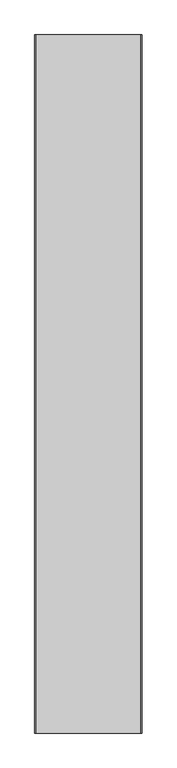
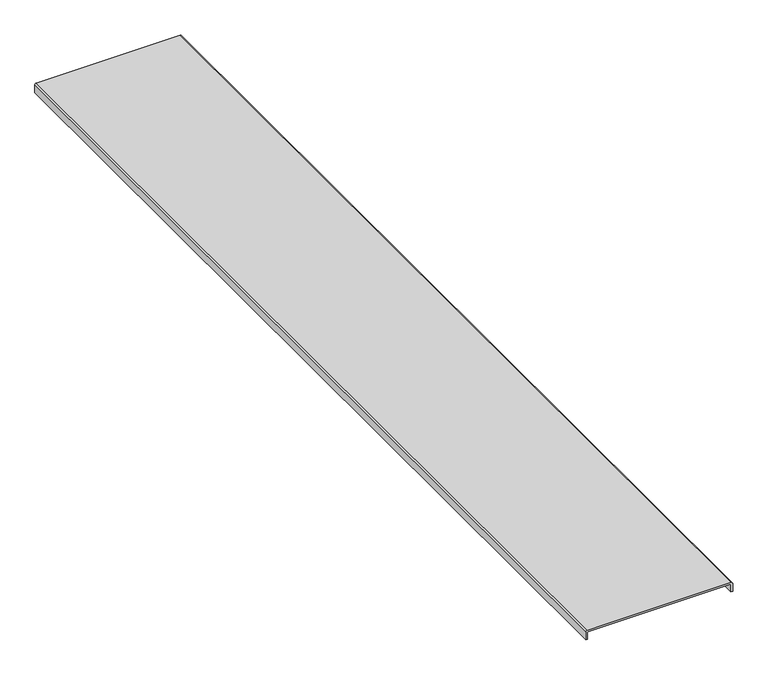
"""IFC4 building model written with IfcOpenShell, lengths in millimetres: proxy geometry, Cable_Tray_Cover_TWT_Basorcanal : Basorcanal TWT 300."""

from ifc_helpers import new_model, si_unit, point, frame, frame_2d, origin, place, context, project, spatial, polyline, circle_curve, trimmed, segment, composite_curve, outline, extrude, source, transform, mapped, element, save


def generic_models_886ef908(model_context):
    return source(origin(), model_context, "Body", "SweptSolid", [
        extrude(outline(composite_curve([segment(trimmed(circle_curve(frame_2d((-0.5, -149.5)), 0.5), [point((-0.5, -150.0))], [point((0.0, -149.5))], True, "CARTESIAN"), True, "CONTINUOUS"), segment(polyline([(0.0, -149.5), (0.0, 149.5)]), True, "CONTINUOUS"), segment(trimmed(circle_curve(frame_2d((-0.5, 149.5)), 0.5), [point((0.0, 149.5))], [point((-0.5, 150.0))], True, "CARTESIAN"), True, "CONTINUOUS"), segment(polyline([(-0.5, 150.0), (-16.0, 150.0), (-16.0, 154.0), (0.9268922, 154.0)]), True, "CONTINUOUS"), segment(trimmed(circle_curve(frame_2d((0.9268922, 150.9268922)), 3.0731078), [point((0.9268922, 154.0))], [point((4.0, 150.9268922))], False, "CARTESIAN"), True, "CONTINUOUS"), segment(polyline([(4.0, 150.9268922), (4.0, -150.6770801)]), True, "CONTINUOUS"), segment(trimmed(circle_curve(frame_2d((0.6770801, -150.6770801)), 3.3229199), [point((4.0, -150.6770801))], [point((0.6770801, -154.0))], False, "CARTESIAN"), True, "CONTINUOUS"), segment(polyline([(0.6770801, -154.0), (-16.0, -154.0), (-16.0, -150.0), (-0.5, -150.0)]), True, "CONTINUOUS")], self_intersect=False)), frame((0.0, 0.0, 0.0), z_axis=(0.0, 1.0, 0.0), x_axis=(0.0, 0.0, 1.0)), (0.0, 0.0, 1.0), 2000.0),
    ])


if __name__ == "__main__":
    model = new_model("IFC4")
    model_context = context("Model", 3, world=origin())
    ifc_project = project(units=[si_unit("LENGTHUNIT", "METRE", prefix="MILLI")], contexts=[model_context])
    site = spatial("IfcSite", under=ifc_project)
    building = spatial("IfcBuilding", under=site)
    placement = place(None, origin())
    generic_models_shape = generic_models_886ef908(model_context)
    element("IfcBuildingElementProxy", 1, Name="Cable_Tray_Cover_TWT_Basorcanal : Basorcanal TWT 300", ObjectType="Cable_Tray_Cover_TWT_Basorcanal : Basorcanal TWT 300", at=placement, inside=building, context=model_context, shape_type="MappedRepresentation", body=[
        mapped(generic_models_shape, transform((0.0, 0.0, 0.0), x_axis=(1.0, 0.0, 0.0), y_axis=(0.0, 1.0, 0.0), z_axis=(0.0, 0.0, 1.0))),
    ])
    save(model, "model.ifc")
